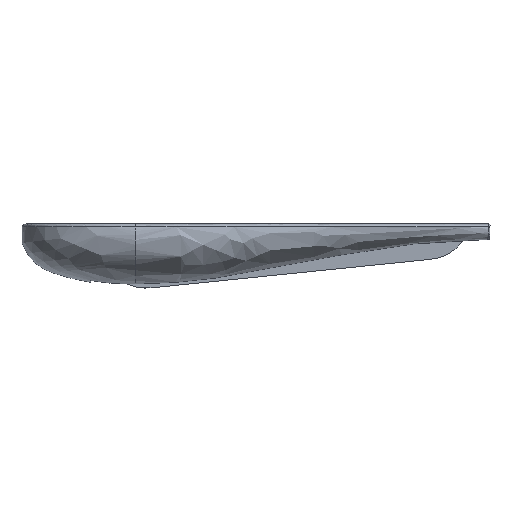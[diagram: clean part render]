
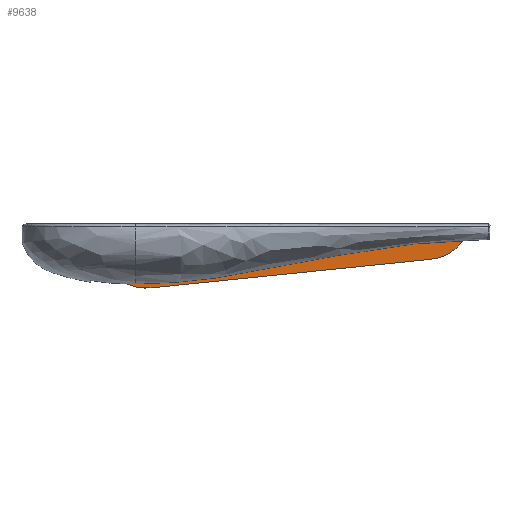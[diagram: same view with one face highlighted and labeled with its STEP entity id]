
A CAD part, front view. The second image highlights one B-rep face of the part: STEP entity #9638.
In plain terms, the highlighted planar face has unit normal (0, -0.999, -0.035).
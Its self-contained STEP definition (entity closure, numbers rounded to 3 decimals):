
#9533=CARTESIAN_POINT('Vertex',(531.496,-35.349,-40.018)) ;
#9540=CARTESIAN_POINT('Vertex',(537.111,-35.629,-32.)) ;
#9543=CARTESIAN_POINT('Line Origine',(534.304,-35.489,-36.009)) ;
#9555=CARTESIAN_POINT('Axis2P3D Location',(52.625,-35.,-50.)) ;
#9561=CARTESIAN_POINT('Control Point',(-269.576,-31.038,-163.47)) ;
#9562=CARTESIAN_POINT('Control Point',(-286.589,-30.977,-165.205)) ;
#9563=CARTESIAN_POINT('Control Point',(-303.91,-31.022,-163.91)) ;
#9564=CARTESIAN_POINT('Control Point',(-320.82,-31.176,-159.508)) ;
#9565=CARTESIAN_POINT('Control Point',(-336.573,-31.431,-152.194)) ;
#9566=CARTESIAN_POINT('Control Point',(-350.578,-31.774,-142.388)) ;
#9567=CARTESIAN_POINT('Vertex',(-350.578,-31.774,-142.388)) ;
#9569=CARTESIAN_POINT('Vertex',(-269.576,-31.038,-163.47)) ;
#9573=CARTESIAN_POINT('Control Point',(445.371,-33.583,-90.57)) ;
#9574=CARTESIAN_POINT('Control Point',(-269.576,-31.038,-163.47)) ;
#9575=CARTESIAN_POINT('Vertex',(445.371,-33.583,-90.57)) ;
#9579=CARTESIAN_POINT('Control Point',(445.371,-33.583,-90.57)) ;
#9580=CARTESIAN_POINT('Control Point',(465.868,-33.656,-88.48)) ;
#9581=CARTESIAN_POINT('Control Point',(485.916,-33.883,-81.993)) ;
#9582=CARTESIAN_POINT('Control Point',(504.251,-34.259,-71.228)) ;
#9583=CARTESIAN_POINT('Control Point',(519.684,-34.759,-56.889)) ;
#9584=CARTESIAN_POINT('Control Point',(531.496,-35.349,-40.018)) ;
#9586=CARTESIAN_POINT('Line Origine',(52.625,-35.629,-32.)) ;
#9590=CARTESIAN_POINT('Vertex',(551.9,-35.629,-32.)) ;
#9593=CARTESIAN_POINT('Line Origine',(551.9,-33.041,-106.1)) ;
#9597=CARTESIAN_POINT('Vertex',(551.9,-36.32,-12.2)) ;
#9600=CARTESIAN_POINT('Line Origine',(52.625,-36.32,-12.2)) ;
#9604=CARTESIAN_POINT('Vertex',(-409.55,-36.32,-12.2)) ;
#9608=CARTESIAN_POINT('Control Point',(-422.172,-32.136,-132.)) ;
#9609=CARTESIAN_POINT('Control Point',(-417.965,-33.531,-92.068)) ;
#9610=CARTESIAN_POINT('Control Point',(-413.757,-34.925,-52.135)) ;
#9611=CARTESIAN_POINT('Control Point',(-409.55,-36.32,-12.2)) ;
#9612=CARTESIAN_POINT('Vertex',(-422.172,-32.136,-132.)) ;
#9615=CARTESIAN_POINT('Line Origine',(52.625,-32.136,-132.)) ;
#9619=CARTESIAN_POINT('Vertex',(-365.413,-32.136,-132.)) ;
#9623=CARTESIAN_POINT('Control Point',(-365.413,-32.136,-132.)) ;
#9624=CARTESIAN_POINT('Control Point',(-350.578,-31.774,-142.388)) ;
#9544=DIRECTION('Vector Direction',(-0.573,0.029,-0.819)) ;
#9556=DIRECTION('Axis2P3D Direction',(-0.,0.999,0.035)) ;
#9557=DIRECTION('Axis2P3D XDirection',(1.,0.,0.)) ;
#9587=DIRECTION('Vector Direction',(1.,0.,0.)) ;
#9594=DIRECTION('Vector Direction',(0.,0.035,-0.999)) ;
#9601=DIRECTION('Vector Direction',(1.,0.,0.)) ;
#9616=DIRECTION('Vector Direction',(1.,0.,0.)) ;
#9558=AXIS2_PLACEMENT_3D('Plane Axis2P3D',#9555,#9556,#9557) ;
#9627=ORIENTED_EDGE('',*,*,#9571,.T.) ;
#9628=ORIENTED_EDGE('',*,*,#9577,.F.) ;
#9629=ORIENTED_EDGE('',*,*,#9585,.T.) ;
#9630=ORIENTED_EDGE('',*,*,#9547,.F.) ;
#9631=ORIENTED_EDGE('',*,*,#9592,.F.) ;
#9632=ORIENTED_EDGE('',*,*,#9599,.T.) ;
#9633=ORIENTED_EDGE('',*,*,#9606,.F.) ;
#9634=ORIENTED_EDGE('',*,*,#9614,.F.) ;
#9635=ORIENTED_EDGE('',*,*,#9621,.T.) ;
#9636=ORIENTED_EDGE('',*,*,#9625,.T.) ;
#9545=VECTOR('Line Direction',#9544,1.) ;
#9588=VECTOR('Line Direction',#9587,1.) ;
#9595=VECTOR('Line Direction',#9594,1.) ;
#9602=VECTOR('Line Direction',#9601,1.) ;
#9617=VECTOR('Line Direction',#9616,1.) ;
#9638=ADVANCED_FACE('Hauptk\X2\00F6\X0\rper',(#9637),#9559,.F.) ;
#9560=B_SPLINE_CURVE_WITH_KNOTS('',5,(#9561,#9562,#9563,#9564,#9565,#9566),.UNSPECIFIED.,.F.,.U.,(6,6),(0.,120.919),.UNSPECIFIED.) ;
#9572=B_SPLINE_CURVE_WITH_KNOTS('',1,(#9573,#9574),.UNSPECIFIED.,.F.,.U.,(2,2),(-354.2,364.459),.UNSPECIFIED.) ;
#9578=B_SPLINE_CURVE_WITH_KNOTS('',5,(#9579,#9580,#9581,#9582,#9583,#9584),.UNSPECIFIED.,.F.,.U.,(6,6),(0.,145.686),.UNSPECIFIED.) ;
#9607=B_SPLINE_CURVE_WITH_KNOTS('',3,(#9608,#9609,#9610,#9611),.UNSPECIFIED.,.F.,.U.,(4,4),(96.88,267.549),.UNSPECIFIED.) ;
#9622=B_SPLINE_CURVE_WITH_KNOTS('',1,(#9623,#9624),.UNSPECIFIED.,.F.,.U.,(2,2),(-51.617,-33.503),.UNSPECIFIED.) ;
#9547=EDGE_CURVE('',#9541,#9534,#9546,.T.) ;
#9571=EDGE_CURVE('',#9568,#9570,#9560,.F.) ;
#9577=EDGE_CURVE('',#9576,#9570,#9572,.T.) ;
#9585=EDGE_CURVE('',#9576,#9534,#9578,.T.) ;
#9592=EDGE_CURVE('',#9591,#9541,#9589,.F.) ;
#9599=EDGE_CURVE('',#9591,#9598,#9596,.F.) ;
#9606=EDGE_CURVE('',#9605,#9598,#9603,.T.) ;
#9614=EDGE_CURVE('',#9613,#9605,#9607,.T.) ;
#9621=EDGE_CURVE('',#9613,#9620,#9618,.T.) ;
#9625=EDGE_CURVE('',#9620,#9568,#9622,.T.) ;
#9626=EDGE_LOOP('',(#9627,#9628,#9629,#9630,#9631,#9632,#9633,#9634,#9635,#9636)) ;
#9637=FACE_OUTER_BOUND('',#9626,.T.) ;
#9546=LINE('Line',#9543,#9545) ;
#9589=LINE('Line',#9586,#9588) ;
#9596=LINE('Line',#9593,#9595) ;
#9603=LINE('Line',#9600,#9602) ;
#9618=LINE('Line',#9615,#9617) ;
#9559=PLANE('Plane',#9558) ;
#9534=VERTEX_POINT('',#9533) ;
#9541=VERTEX_POINT('',#9540) ;
#9568=VERTEX_POINT('',#9567) ;
#9570=VERTEX_POINT('',#9569) ;
#9576=VERTEX_POINT('',#9575) ;
#9591=VERTEX_POINT('',#9590) ;
#9598=VERTEX_POINT('',#9597) ;
#9605=VERTEX_POINT('',#9604) ;
#9613=VERTEX_POINT('',#9612) ;
#9620=VERTEX_POINT('',#9619) ;
